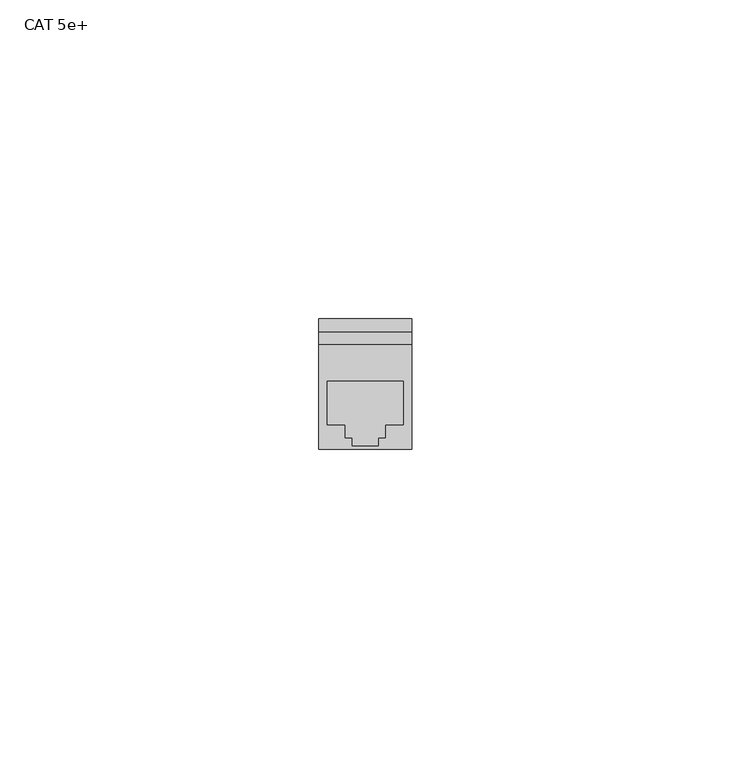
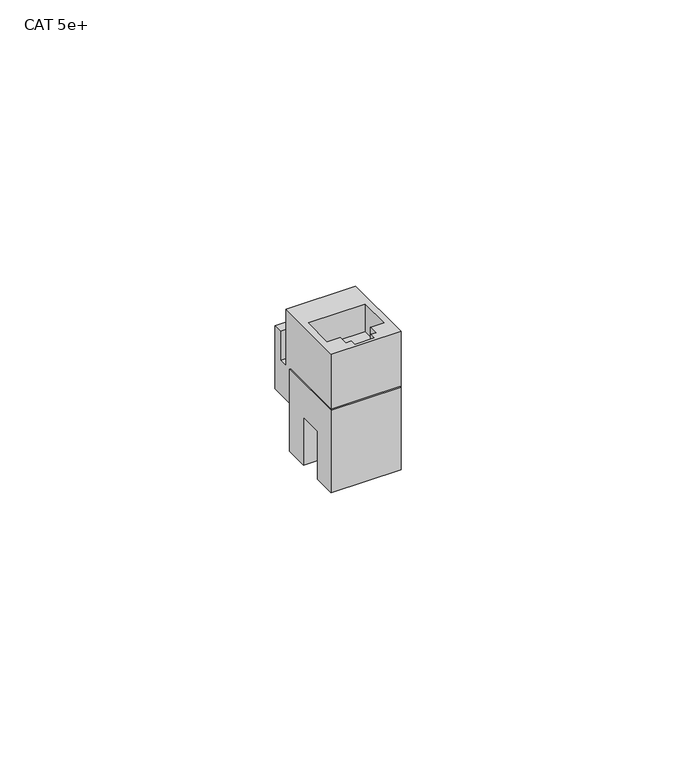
"""IFC4 building model written with IfcOpenShell, lengths in millimetres: electric appliance geometry, Data_Device-Network-Leviton-QuickPort-Connector-Copper : CAT 5e+."""

from ifc_helpers import new_model, si_unit, frame, origin, place, context, project, spatial, polyline, outline, extrude, faceted_brep, source, transform, mapped, element, save


def cat_5e_8b6398ec(model_context):
    return source(origin(), model_context, "Body", "SolidModel", [
        extrude(outline(polyline([(10.0965, -30.734), (10.0965, -20.066), (5.0165, -20.066), (5.0165, -30.734), (0.0, -30.734), (0.0, -12.446), (15.113, -12.446), (15.113, -30.734), (10.0965, -30.734)])), frame((-7.3025, 0.0, 0.0), z_axis=(1.0, 0.0, 0.0), x_axis=(0.0, 1.0, 0.0)), (0.0, 0.0, 1.0), 14.605),
        faceted_brep([(7.3025, 16.383, 0.0254), (-7.3025, 16.383, 0.0254), (-7.3025, 0.0, 0.0254), (7.3025, 0.0, 0.0254), (-5.9563, 10.6426, 0.0254), (5.9563, 10.6426, 0.0254), (5.9563, 3.81, 0.0254), (3.1496, 3.81, 0.0254), (3.1496, 1.8288, 0.0254), (2.032, 1.8288, 0.0254), (2.032, 0.5588, 0.0254), (-2.032, 0.5588, 0.0254), (-2.032, 1.8288, 0.0254), (-3.1496, 1.8288, 0.0254), (-3.1496, 3.81, 0.0254), (-5.9563, 3.81, 0.0254), (7.3025, 0.0, -12.446), (-7.3025, 0.0, -12.446), (-7.3025, 15.113, -12.446), (7.3025, 15.113, -12.446), (7.3025, 16.383, -12.446), (-7.3025, 16.383, -12.446), (-7.3025, 18.415, -12.446), (-7.3025, 18.415, -6.096), (-7.3025, 20.447, -6.096), (-7.3025, 20.447, -20.066), (-7.3025, 15.113, -20.066), (7.3025, 15.113, -20.066), (7.3025, 20.447, -20.066), (7.3025, 20.447, -6.096), (7.3025, 18.415, -6.096), (7.3025, 18.415, -12.446), (5.9563, 10.6426, -6.0706), (-5.9563, 10.6426, -6.0706), (-5.9563, 3.81, -6.0706), (-3.1496, 3.81, -6.0706), (-3.1496, 1.8288, -6.0706), (-2.032, 1.8288, -6.0706), (-2.032, 0.5588, -6.0706), (2.032, 0.5588, -6.0706), (2.032, 1.8288, -6.0706), (3.1496, 1.8288, -6.0706), (3.1496, 3.81, -6.0706), (5.9563, 3.81, -6.0706)], [[[0, 1, 2, 3], [4, 5, 6, 7, 8, 9, 10, 11, 12, 13, 14, 15]], [[16, 17, 18, 19]], [[1, 0, 20, 21]], [[2, 1, 21, 22, 23, 24, 25, 26, 18, 17]], [[3, 2, 17, 16]], [[0, 3, 16, 19, 27, 28, 29, 30, 31, 20]], [[31, 30, 23, 22]], [[31, 22, 21, 20]], [[27, 19, 18, 26]], [[28, 27, 26, 25]], [[29, 28, 25, 24]], [[30, 29, 24, 23]], [[32, 33, 34, 35, 36, 37, 38, 39, 40, 41, 42, 43]], [[33, 32, 5, 4]], [[34, 33, 4, 15]], [[35, 34, 15, 14]], [[36, 35, 14, 13]], [[37, 36, 13, 12]], [[38, 37, 12, 11]], [[39, 38, 11, 10]], [[40, 39, 10, 9]], [[41, 40, 9, 8]], [[42, 41, 8, 7]], [[43, 42, 7, 6]], [[32, 43, 6, 5]]]),
    ])


if __name__ == "__main__":
    model = new_model("IFC4")
    model_context = context("Model", 3, world=origin())
    ifc_project = project(units=[si_unit("LENGTHUNIT", "METRE", prefix="MILLI")], contexts=[model_context])
    site = spatial("IfcSite", under=ifc_project)
    building = spatial("IfcBuilding", under=site)
    placement = place(None, origin())
    cat_5e_shape = cat_5e_8b6398ec(model_context)
    element("IfcElectricAppliance", 1, ObjectType="Data_Device-Network-Leviton-QuickPort-Connector-Copper : CAT 5e+", at=placement, inside=building, context=model_context, shape_type="MappedRepresentation", body=[
        mapped(cat_5e_shape, transform((0.0, 0.0, 0.0), x_axis=(1.0, 0.0, 0.0), y_axis=(0.0, 1.0, 0.0), z_axis=(0.0, 0.0, 1.0))),
    ])
    save(model, "model.ifc")
